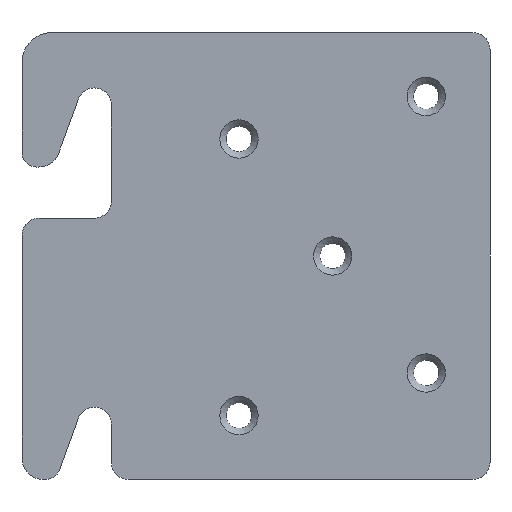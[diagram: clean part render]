
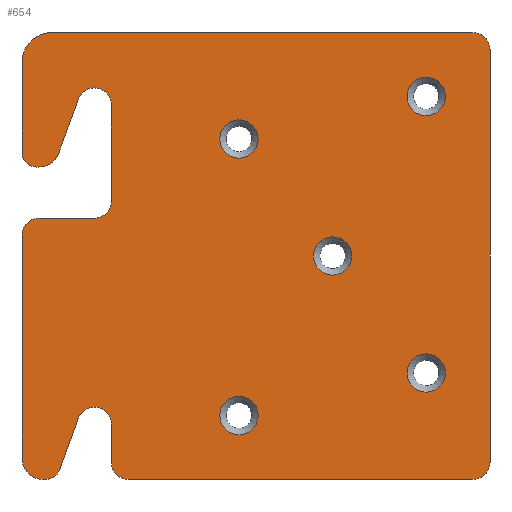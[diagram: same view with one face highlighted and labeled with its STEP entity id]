
A CAD part, front view. The second image highlights one B-rep face of the part: STEP entity #654.
In plain terms, the highlighted planar face has unit normal (0, -1, 0).
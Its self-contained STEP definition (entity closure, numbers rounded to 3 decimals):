
#20=FACE_BOUND('',#83,.T.);
#21=FACE_BOUND('',#84,.T.);
#22=FACE_BOUND('',#85,.T.);
#23=FACE_BOUND('',#86,.T.);
#24=FACE_BOUND('',#87,.T.);
#31=PLANE('',#814);
#46=FACE_OUTER_BOUND('',#82,.T.);
#82=EDGE_LOOP('',(#449,#450,#451,#452,#453,#454,#455,#456,#457,#458,#459,
#460,#461,#462,#463,#464,#465,#466,#467,#468,#469,#470,#471,#472));
#83=EDGE_LOOP('',(#473));
#84=EDGE_LOOP('',(#474));
#85=EDGE_LOOP('',(#475));
#86=EDGE_LOOP('',(#476));
#87=EDGE_LOOP('',(#477));
#130=LINE('',#1110,#188);
#131=LINE('',#1115,#189);
#132=LINE('',#1119,#190);
#133=LINE('',#1123,#191);
#134=LINE('',#1127,#192);
#135=LINE('',#1131,#193);
#136=LINE('',#1135,#194);
#137=LINE('',#1139,#195);
#138=LINE('',#1143,#196);
#139=LINE('',#1147,#197);
#140=LINE('',#1151,#198);
#141=LINE('',#1154,#199);
#188=VECTOR('',#899,10.);
#189=VECTOR('',#904,10.);
#190=VECTOR('',#907,10.);
#191=VECTOR('',#910,10.);
#192=VECTOR('',#913,10.);
#193=VECTOR('',#916,10.);
#194=VECTOR('',#919,10.);
#195=VECTOR('',#922,10.);
#196=VECTOR('',#925,10.);
#197=VECTOR('',#928,10.);
#198=VECTOR('',#931,10.);
#199=VECTOR('',#934,10.);
#243=CIRCLE('',#812,4.);
#244=CIRCLE('',#815,5.);
#245=CIRCLE('',#816,3.5);
#246=CIRCLE('',#817,4.);
#247=CIRCLE('',#818,4.);
#248=CIRCLE('',#819,4.);
#249=CIRCLE('',#820,4.);
#250=CIRCLE('',#821,7.);
#251=CIRCLE('',#822,3.5);
#252=CIRCLE('',#823,5.);
#253=CIRCLE('',#824,4.);
#254=CIRCLE('',#825,4.);
#255=CIRCLE('',#826,4.5);
#256=CIRCLE('',#827,4.5);
#257=CIRCLE('',#828,4.5);
#258=CIRCLE('',#829,4.5);
#259=CIRCLE('',#830,4.5);
#283=VERTEX_POINT('',#1100);
#284=VERTEX_POINT('',#1102);
#286=VERTEX_POINT('',#1108);
#287=VERTEX_POINT('',#1112);
#288=VERTEX_POINT('',#1114);
#289=VERTEX_POINT('',#1116);
#290=VERTEX_POINT('',#1118);
#291=VERTEX_POINT('',#1120);
#292=VERTEX_POINT('',#1122);
#293=VERTEX_POINT('',#1124);
#294=VERTEX_POINT('',#1126);
#295=VERTEX_POINT('',#1128);
#296=VERTEX_POINT('',#1130);
#297=VERTEX_POINT('',#1132);
#298=VERTEX_POINT('',#1134);
#299=VERTEX_POINT('',#1136);
#300=VERTEX_POINT('',#1138);
#301=VERTEX_POINT('',#1140);
#302=VERTEX_POINT('',#1142);
#303=VERTEX_POINT('',#1144);
#304=VERTEX_POINT('',#1146);
#305=VERTEX_POINT('',#1148);
#306=VERTEX_POINT('',#1150);
#307=VERTEX_POINT('',#1152);
#308=VERTEX_POINT('',#1155);
#309=VERTEX_POINT('',#1157);
#310=VERTEX_POINT('',#1159);
#311=VERTEX_POINT('',#1161);
#312=VERTEX_POINT('',#1163);
#346=EDGE_CURVE('',#284,#283,#243,.T.);
#350=EDGE_CURVE('',#286,#283,#130,.T.);
#351=EDGE_CURVE('',#286,#287,#244,.T.);
#352=EDGE_CURVE('',#288,#287,#131,.T.);
#353=EDGE_CURVE('',#288,#289,#245,.T.);
#354=EDGE_CURVE('',#289,#290,#132,.T.);
#355=EDGE_CURVE('',#291,#290,#246,.T.);
#356=EDGE_CURVE('',#291,#292,#133,.T.);
#357=EDGE_CURVE('',#292,#293,#247,.T.);
#358=EDGE_CURVE('',#294,#293,#134,.T.);
#359=EDGE_CURVE('',#294,#295,#248,.T.);
#360=EDGE_CURVE('',#296,#295,#135,.T.);
#361=EDGE_CURVE('',#296,#297,#249,.T.);
#362=EDGE_CURVE('',#298,#297,#136,.T.);
#363=EDGE_CURVE('',#298,#299,#250,.T.);
#364=EDGE_CURVE('',#300,#299,#137,.T.);
#365=EDGE_CURVE('',#300,#301,#251,.T.);
#366=EDGE_CURVE('',#302,#301,#138,.T.);
#367=EDGE_CURVE('',#302,#303,#252,.T.);
#368=EDGE_CURVE('',#303,#304,#139,.T.);
#369=EDGE_CURVE('',#305,#304,#253,.T.);
#370=EDGE_CURVE('',#305,#306,#140,.T.);
#371=EDGE_CURVE('',#307,#306,#254,.T.);
#372=EDGE_CURVE('',#284,#307,#141,.T.);
#373=EDGE_CURVE('',#308,#308,#255,.T.);
#374=EDGE_CURVE('',#309,#309,#256,.T.);
#375=EDGE_CURVE('',#310,#310,#257,.T.);
#376=EDGE_CURVE('',#311,#311,#258,.T.);
#377=EDGE_CURVE('',#312,#312,#259,.T.);
#449=ORIENTED_EDGE('',*,*,#346,.T.);
#450=ORIENTED_EDGE('',*,*,#350,.F.);
#451=ORIENTED_EDGE('',*,*,#351,.T.);
#452=ORIENTED_EDGE('',*,*,#352,.F.);
#453=ORIENTED_EDGE('',*,*,#353,.T.);
#454=ORIENTED_EDGE('',*,*,#354,.T.);
#455=ORIENTED_EDGE('',*,*,#355,.F.);
#456=ORIENTED_EDGE('',*,*,#356,.T.);
#457=ORIENTED_EDGE('',*,*,#357,.T.);
#458=ORIENTED_EDGE('',*,*,#358,.F.);
#459=ORIENTED_EDGE('',*,*,#359,.T.);
#460=ORIENTED_EDGE('',*,*,#360,.F.);
#461=ORIENTED_EDGE('',*,*,#361,.T.);
#462=ORIENTED_EDGE('',*,*,#362,.F.);
#463=ORIENTED_EDGE('',*,*,#363,.T.);
#464=ORIENTED_EDGE('',*,*,#364,.F.);
#465=ORIENTED_EDGE('',*,*,#365,.T.);
#466=ORIENTED_EDGE('',*,*,#366,.F.);
#467=ORIENTED_EDGE('',*,*,#367,.T.);
#468=ORIENTED_EDGE('',*,*,#368,.T.);
#469=ORIENTED_EDGE('',*,*,#369,.F.);
#470=ORIENTED_EDGE('',*,*,#370,.T.);
#471=ORIENTED_EDGE('',*,*,#371,.F.);
#472=ORIENTED_EDGE('',*,*,#372,.F.);
#473=ORIENTED_EDGE('',*,*,#373,.F.);
#474=ORIENTED_EDGE('',*,*,#374,.F.);
#475=ORIENTED_EDGE('',*,*,#375,.F.);
#476=ORIENTED_EDGE('',*,*,#376,.F.);
#477=ORIENTED_EDGE('',*,*,#377,.F.);
#654=ADVANCED_FACE('',(#46,#20,#21,#22,#23,#24),#31,.T.);
#812=AXIS2_PLACEMENT_3D('',#1103,#892,#893);
#814=AXIS2_PLACEMENT_3D('',#1111,#900,#901);
#815=AXIS2_PLACEMENT_3D('',#1113,#902,#903);
#816=AXIS2_PLACEMENT_3D('',#1117,#905,#906);
#817=AXIS2_PLACEMENT_3D('',#1121,#908,#909);
#818=AXIS2_PLACEMENT_3D('',#1125,#911,#912);
#819=AXIS2_PLACEMENT_3D('',#1129,#914,#915);
#820=AXIS2_PLACEMENT_3D('',#1133,#917,#918);
#821=AXIS2_PLACEMENT_3D('',#1137,#920,#921);
#822=AXIS2_PLACEMENT_3D('',#1141,#923,#924);
#823=AXIS2_PLACEMENT_3D('',#1145,#926,#927);
#824=AXIS2_PLACEMENT_3D('',#1149,#929,#930);
#825=AXIS2_PLACEMENT_3D('',#1153,#932,#933);
#826=AXIS2_PLACEMENT_3D('',#1156,#935,#936);
#827=AXIS2_PLACEMENT_3D('',#1158,#937,#938);
#828=AXIS2_PLACEMENT_3D('',#1160,#939,#940);
#829=AXIS2_PLACEMENT_3D('',#1162,#941,#942);
#830=AXIS2_PLACEMENT_3D('',#1164,#943,#944);
#892=DIRECTION('center_axis',(0.,-1.,0.));
#893=DIRECTION('ref_axis',(-0.707,0.,0.707));
#899=DIRECTION('',(0.,0.,1.));
#900=DIRECTION('center_axis',(0.,-1.,0.));
#901=DIRECTION('ref_axis',(-1.,0.,0.));
#902=DIRECTION('center_axis',(0.,-1.,0.));
#903=DIRECTION('ref_axis',(-1.,0.,0.));
#904=DIRECTION('',(-1.,0.,0.));
#905=DIRECTION('center_axis',(0.,-1.,0.));
#906=DIRECTION('ref_axis',(0.,0.,-1.));
#907=DIRECTION('',(0.342,0.,0.94));
#908=DIRECTION('center_axis',(0.,-1.,0.));
#909=DIRECTION('ref_axis',(1.,0.,0.));
#910=DIRECTION('',(0.,0.,-1.));
#911=DIRECTION('center_axis',(0.,-1.,0.));
#912=DIRECTION('ref_axis',(-1.,0.,0.));
#913=DIRECTION('',(-1.,0.,0.));
#914=DIRECTION('center_axis',(0.,-1.,0.));
#915=DIRECTION('ref_axis',(0.707,0.,-0.707));
#916=DIRECTION('',(0.,0.,-1.));
#917=DIRECTION('center_axis',(0.,-1.,0.));
#918=DIRECTION('ref_axis',(0.707,0.,0.707));
#919=DIRECTION('',(1.,0.,0.));
#920=DIRECTION('center_axis',(0.,-1.,0.));
#921=DIRECTION('ref_axis',(0.,0.,1.));
#922=DIRECTION('',(0.,0.,1.));
#923=DIRECTION('center_axis',(0.,-1.,0.));
#924=DIRECTION('ref_axis',(-1.,0.,0.));
#925=DIRECTION('',(-1.,0.,0.));
#926=DIRECTION('center_axis',(0.,-1.,0.));
#927=DIRECTION('ref_axis',(0.,0.,-1.));
#928=DIRECTION('',(0.342,0.,0.94));
#929=DIRECTION('center_axis',(0.,-1.,0.));
#930=DIRECTION('ref_axis',(1.,0.,0.));
#931=DIRECTION('',(0.,0.,-1.));
#932=DIRECTION('center_axis',(0.,-1.,0.));
#933=DIRECTION('ref_axis',(0.,0.,-1.));
#934=DIRECTION('',(1.,0.,0.));
#935=DIRECTION('center_axis',(0.,-1.,0.));
#936=DIRECTION('ref_axis',(0.,0.,-1.));
#937=DIRECTION('center_axis',(0.,-1.,0.));
#938=DIRECTION('ref_axis',(0.,0.,-1.));
#939=DIRECTION('center_axis',(0.,-1.,0.));
#940=DIRECTION('ref_axis',(0.,0.,-1.));
#941=DIRECTION('center_axis',(0.,-1.,0.));
#942=DIRECTION('ref_axis',(0.,0.,-1.));
#943=DIRECTION('center_axis',(0.,-1.,0.));
#944=DIRECTION('ref_axis',(0.,0.,-1.));
#1100=CARTESIAN_POINT('',(-110.,0.,57.4));
#1102=CARTESIAN_POINT('',(-106.,0.,61.4));
#1103=CARTESIAN_POINT('Origin',(-106.,0.,57.4));
#1108=CARTESIAN_POINT('',(-110.,0.,5.));
#1110=CARTESIAN_POINT('',(-110.,0.,5.));
#1111=CARTESIAN_POINT('Origin',(-55.,0.,52.5));
#1112=CARTESIAN_POINT('',(-105.,0.,0.));
#1113=CARTESIAN_POINT('Origin',(-105.,0.,5.));
#1114=CARTESIAN_POINT('',(-104.439,0.,0.));
#1115=CARTESIAN_POINT('',(-104.439,0.,0.));
#1116=CARTESIAN_POINT('',(-101.15,0.,2.303));
#1117=CARTESIAN_POINT('Origin',(-104.439,0.,3.5));
#1118=CARTESIAN_POINT('',(-96.759,0.,14.368));
#1119=CARTESIAN_POINT('',(-101.15,0.,2.303));
#1120=CARTESIAN_POINT('',(-89.,0.,13.));
#1121=CARTESIAN_POINT('Origin',(-93.,0.,13.));
#1122=CARTESIAN_POINT('',(-89.,0.,4.));
#1123=CARTESIAN_POINT('',(-89.,0.,13.));
#1124=CARTESIAN_POINT('',(-85.,0.,0.));
#1125=CARTESIAN_POINT('Origin',(-85.,0.,4.));
#1126=CARTESIAN_POINT('',(-4.,0.,0.));
#1127=CARTESIAN_POINT('',(0.,0.,0.));
#1128=CARTESIAN_POINT('',(0.,0.,4.));
#1129=CARTESIAN_POINT('Origin',(-4.,0.,4.));
#1130=CARTESIAN_POINT('',(0.,0.,101.));
#1131=CARTESIAN_POINT('',(0.,0.,105.));
#1132=CARTESIAN_POINT('',(-4.,0.,105.));
#1133=CARTESIAN_POINT('Origin',(-4.,0.,101.));
#1134=CARTESIAN_POINT('',(-103.,0.,105.));
#1135=CARTESIAN_POINT('',(-103.,0.,105.));
#1136=CARTESIAN_POINT('',(-110.,0.,98.));
#1137=CARTESIAN_POINT('Origin',(-103.,0.,98.));
#1138=CARTESIAN_POINT('',(-110.,0.,76.9));
#1139=CARTESIAN_POINT('',(-110.,0.,76.9));
#1140=CARTESIAN_POINT('',(-106.5,0.,73.4));
#1141=CARTESIAN_POINT('Origin',(-106.5,0.,76.9));
#1142=CARTESIAN_POINT('',(-106.072,0.,73.4));
#1143=CARTESIAN_POINT('',(-106.072,0.,73.4));
#1144=CARTESIAN_POINT('',(-101.373,0.,76.69));
#1145=CARTESIAN_POINT('Origin',(-106.072,0.,78.4));
#1146=CARTESIAN_POINT('',(-96.759,0.,89.368));
#1147=CARTESIAN_POINT('',(-101.373,0.,76.69));
#1148=CARTESIAN_POINT('',(-89.,0.,88.));
#1149=CARTESIAN_POINT('Origin',(-93.,0.,88.));
#1150=CARTESIAN_POINT('',(-89.,0.,65.4));
#1151=CARTESIAN_POINT('',(-89.,0.,88.));
#1152=CARTESIAN_POINT('',(-93.,0.,61.4));
#1153=CARTESIAN_POINT('Origin',(-93.,0.,65.4));
#1154=CARTESIAN_POINT('',(-110.,0.,61.4));
#1155=CARTESIAN_POINT('',(-37.,0.,57.));
#1156=CARTESIAN_POINT('Origin',(-37.,0.,52.5));
#1157=CARTESIAN_POINT('',(-59.,0.,19.5));
#1158=CARTESIAN_POINT('Origin',(-59.,0.,15.));
#1159=CARTESIAN_POINT('',(-59.,0.,84.5));
#1160=CARTESIAN_POINT('Origin',(-59.,0.,80.));
#1161=CARTESIAN_POINT('',(-15.,0.,29.5));
#1162=CARTESIAN_POINT('Origin',(-15.,0.,25.));
#1163=CARTESIAN_POINT('',(-15.,0.,94.5));
#1164=CARTESIAN_POINT('Origin',(-15.,0.,90.));
